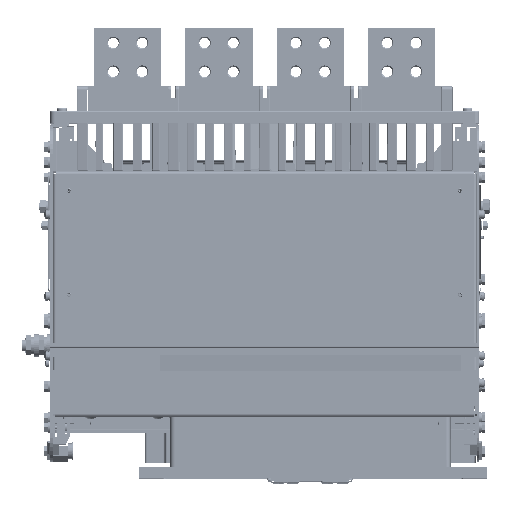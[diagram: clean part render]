
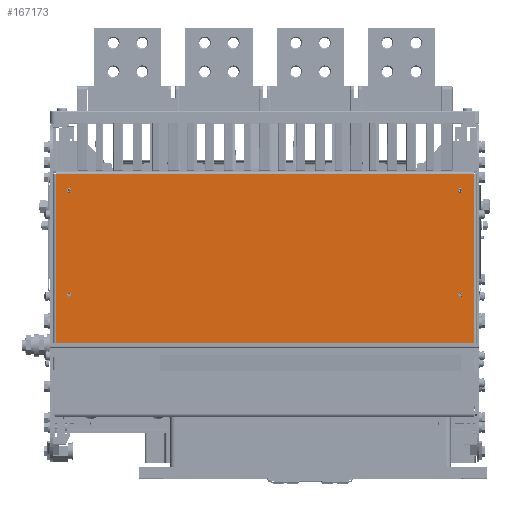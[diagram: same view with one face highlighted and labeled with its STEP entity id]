
A CAD part, top view. The second image highlights one B-rep face of the part: STEP entity #167173.
In plain terms, the highlighted planar face has unit normal (0, 0, 1).
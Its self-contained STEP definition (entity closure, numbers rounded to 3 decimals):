
#7103 = ORIENTED_EDGE ( 'NONE', *, *, #30962, .F. ) ;
#9721 = EDGE_CURVE ( 'NONE', #107874, #107874, #101990, .T. ) ;
#11833 = ORIENTED_EDGE ( 'NONE', *, *, #198441, .T. ) ;
#12978 = LINE ( 'NONE', #139710, #57802 ) ;
#18882 = VERTEX_POINT ( 'NONE', #53035 ) ;
#20501 = DIRECTION ( 'NONE',  ( 0., 0., 1. ) ) ;
#25657 = VECTOR ( 'NONE', #106427, 1000. ) ;
#26165 = CARTESIAN_POINT ( 'NONE',  ( -254.48, 271.265, 457.314 ) ) ;
#27853 = DIRECTION ( 'NONE',  ( 0., 0., 1. ) ) ;
#29307 = FACE_BOUND ( 'NONE', #179602, .T. ) ;
#30962 = EDGE_CURVE ( 'NONE', #39183, #39183, #106627, .T. ) ;
#35409 = AXIS2_PLACEMENT_3D ( 'NONE', #72407, #20501, #135773 ) ;
#39183 = VERTEX_POINT ( 'NONE', #116079 ) ;
#40802 = FACE_BOUND ( 'NONE', #128457, .T. ) ;
#42696 = CARTESIAN_POINT ( 'NONE',  ( 154.07, 271.265, 457.314 ) ) ;
#44897 = DIRECTION ( 'NONE',  ( 1., 0., 0. ) ) ;
#46425 = EDGE_LOOP ( 'NONE', ( #88585 ) ) ;
#47020 = AXIS2_PLACEMENT_3D ( 'NONE', #157621, #27853, #142065 ) ;
#53035 = CARTESIAN_POINT ( 'NONE',  ( -266.93, 288.265, 457.314 ) ) ;
#57802 = VECTOR ( 'NONE', #124140, 1000. ) ;
#59292 = DIRECTION ( 'NONE',  ( -1., 0., 0. ) ) ;
#60326 = CARTESIAN_POINT ( 'NONE',  ( -266.93, 112.265, 457.314 ) ) ;
#69134 = LINE ( 'NONE', #116906, #25657 ) ;
#72034 = CIRCLE ( 'NONE', #35409, 1.55 ) ;
#72407 = CARTESIAN_POINT ( 'NONE',  ( -252.93, 271.265, 457.314 ) ) ;
#75028 = FACE_BOUND ( 'NONE', #104046, .T. ) ;
#75089 = CARTESIAN_POINT ( 'NONE',  ( -266.93, 288.265, 457.314 ) ) ;
#75749 = AXIS2_PLACEMENT_3D ( 'NONE', #42696, #183928, #59292 ) ;
#77273 = DIRECTION ( 'NONE',  ( 1., 0., 0. ) ) ;
#87210 = VERTEX_POINT ( 'NONE', #98311 ) ;
#88585 = ORIENTED_EDGE ( 'NONE', *, *, #126988, .F. ) ;
#89069 = EDGE_LOOP ( 'NONE', ( #99135, #137626, #136597, #11833 ) ) ;
#91844 = LINE ( 'NONE', #140655, #151477 ) ;
#93858 = DIRECTION ( 'NONE',  ( 0., 1., 0. ) ) ;
#96927 = CARTESIAN_POINT ( 'NONE',  ( -252.93, 162.765, 457.314 ) ) ;
#98311 = CARTESIAN_POINT ( 'NONE',  ( 168.07, 288.265, 457.314 ) ) ;
#99135 = ORIENTED_EDGE ( 'NONE', *, *, #161561, .T. ) ;
#99813 = VERTEX_POINT ( 'NONE', #170257 ) ;
#101990 = CIRCLE ( 'NONE', #178371, 1.55 ) ;
#104046 = EDGE_LOOP ( 'NONE', ( #7103 ) ) ;
#106373 = VERTEX_POINT ( 'NONE', #167663 ) ;
#106427 = DIRECTION ( 'NONE',  ( 0., 1., 0. ) ) ;
#106627 = CIRCLE ( 'NONE', #47020, 1.55 ) ;
#107237 = ORIENTED_EDGE ( 'NONE', *, *, #188012, .F. ) ;
#107874 = VERTEX_POINT ( 'NONE', #198308 ) ;
#111518 = DIRECTION ( 'NONE',  ( 0., 0., 1. ) ) ;
#115450 = VECTOR ( 'NONE', #161173, 1000. ) ;
#116079 = CARTESIAN_POINT ( 'NONE',  ( 152.52, 162.765, 457.314 ) ) ;
#116906 = CARTESIAN_POINT ( 'NONE',  ( 168.07, 112.265, 457.314 ) ) ;
#123444 = EDGE_CURVE ( 'NONE', #99813, #87210, #69134, .T. ) ;
#124140 = DIRECTION ( 'NONE',  ( -1., 0., 0. ) ) ;
#124918 = LINE ( 'NONE', #75089, #115450 ) ;
#125392 = ORIENTED_EDGE ( 'NONE', *, *, #9721, .F. ) ;
#126988 = EDGE_CURVE ( 'NONE', #106373, #106373, #145440, .T. ) ;
#128457 = EDGE_LOOP ( 'NONE', ( #125392 ) ) ;
#135773 = DIRECTION ( 'NONE',  ( -1., 0., 0. ) ) ;
#136597 = ORIENTED_EDGE ( 'NONE', *, *, #123444, .T. ) ;
#137626 = ORIENTED_EDGE ( 'NONE', *, *, #159629, .T. ) ;
#139414 = DIRECTION ( 'NONE',  ( 0., 0., 1. ) ) ;
#139710 = CARTESIAN_POINT ( 'NONE',  ( 168.07, 288.265, 457.314 ) ) ;
#139987 = VERTEX_POINT ( 'NONE', #60326 ) ;
#140655 = CARTESIAN_POINT ( 'NONE',  ( -266.93, 112.265, 457.314 ) ) ;
#142065 = DIRECTION ( 'NONE',  ( -1., 0., 0. ) ) ;
#145440 = CIRCLE ( 'NONE', #75749, 1.55 ) ;
#147861 = AXIS2_PLACEMENT_3D ( 'NONE', #185126, #139414, #44897 ) ;
#151477 = VECTOR ( 'NONE', #77273, 1000. ) ;
#154982 = PLANE ( 'NONE',  #147861 ) ;
#157621 = CARTESIAN_POINT ( 'NONE',  ( 154.07, 162.765, 457.314 ) ) ;
#159629 = EDGE_CURVE ( 'NONE', #139987, #99813, #91844, .T. ) ;
#161173 = DIRECTION ( 'NONE',  ( 0., -1., 0. ) ) ;
#161561 = EDGE_CURVE ( 'NONE', #18882, #139987, #124918, .T. ) ;
#167173 = ADVANCED_FACE ( 'NONE', ( #75028, #168519, #29307, #40802, #170554 ), #154982, .T. ) ;
#167663 = CARTESIAN_POINT ( 'NONE',  ( 152.52, 271.265, 457.314 ) ) ;
#168442 = VERTEX_POINT ( 'NONE', #26165 ) ;
#168519 = FACE_BOUND ( 'NONE', #46425, .T. ) ;
#170257 = CARTESIAN_POINT ( 'NONE',  ( 168.07, 112.265, 457.314 ) ) ;
#170554 = FACE_OUTER_BOUND ( 'NONE', #89069, .T. ) ;
#178371 = AXIS2_PLACEMENT_3D ( 'NONE', #96927, #111518, #93858 ) ;
#179602 = EDGE_LOOP ( 'NONE', ( #107237 ) ) ;
#183928 = DIRECTION ( 'NONE',  ( 0., 0., 1. ) ) ;
#185126 = CARTESIAN_POINT ( 'NONE',  ( -96.93, 251.265, 457.314 ) ) ;
#188012 = EDGE_CURVE ( 'NONE', #168442, #168442, #72034, .T. ) ;
#198308 = CARTESIAN_POINT ( 'NONE',  ( -252.93, 164.315, 457.314 ) ) ;
#198441 = EDGE_CURVE ( 'NONE', #87210, #18882, #12978, .T. ) ;
